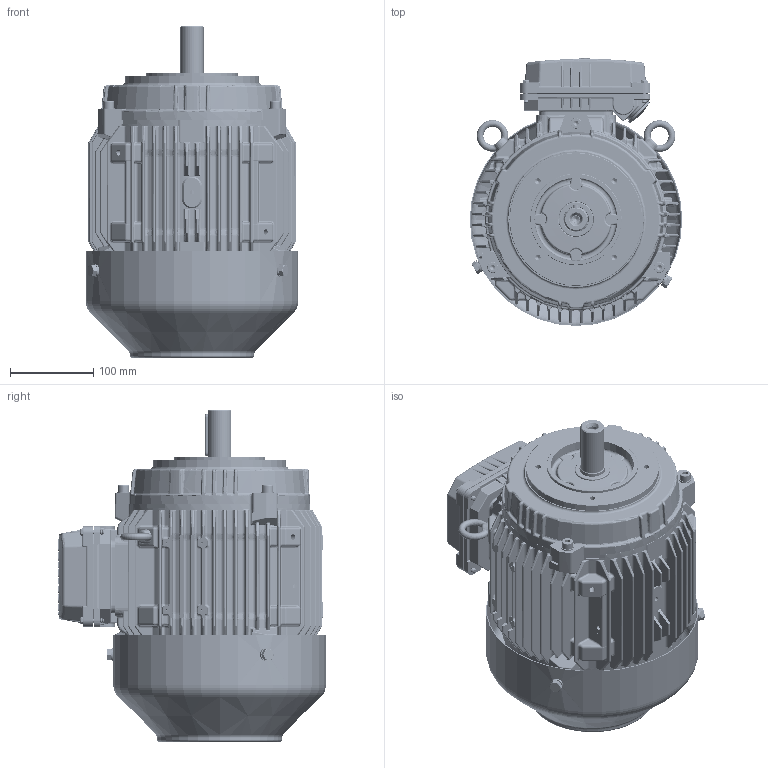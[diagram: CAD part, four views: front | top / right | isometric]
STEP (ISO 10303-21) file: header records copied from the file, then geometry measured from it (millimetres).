
FILE_DESCRIPTION (( 'STEP AP203' ), '1' );
FILE_NAME ('0211200265_RevB.STEP', '2018-07-06T09:12:45', ( '' ), ( '' ), 'SwSTEP 2.0', 'SolidWorks 2015', '' );
FILE_SCHEMA (( 'CONFIG_CONTROL_DESIGN' ));
Length unit declared in the file: millimetre
Products named in the file (1): 0211200265_RevB
Bounding box: 255.4 x 321.7 x 399 mm (x, y, z)
Volume: 2990724.3 mm3; surface area: 1201192.6 mm2
Topology: 32 solids, 32 shells, 7772 faces, 18734 edges, 10918 vertices
Faces by surface type: cylinder 2537, bspline 1923, plane 1227, torus 864, cone 777, sphere 444
Entity records: 288769 total; most frequent: CARTESIAN_POINT 120902, ORIENTED_EDGE 36960, DIRECTION 33793, EDGE_CURVE 18480, AXIS2_PLACEMENT_3D 14152, VERTEX_POINT 10898, CIRCLE 8302, EDGE_LOOP 8292
